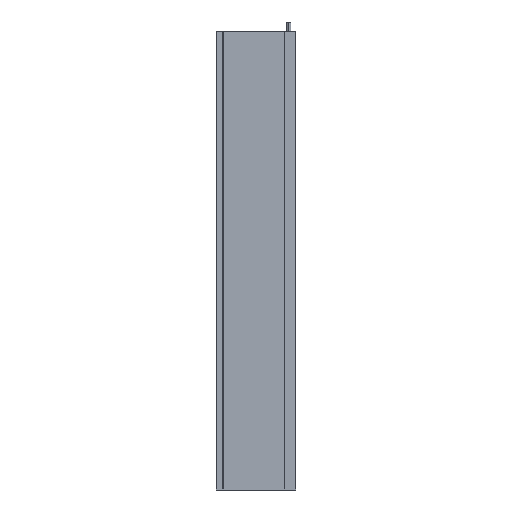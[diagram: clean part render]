
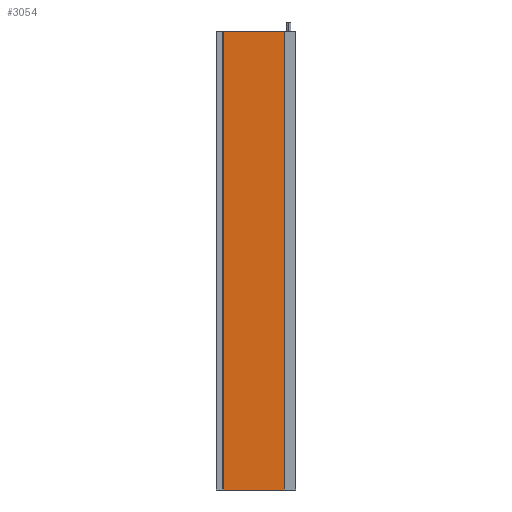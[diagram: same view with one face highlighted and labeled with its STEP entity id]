
A CAD part, left-side view. The second image highlights one B-rep face of the part: STEP entity #3054.
In plain terms, the highlighted planar face has unit normal (-1, 0, 0).
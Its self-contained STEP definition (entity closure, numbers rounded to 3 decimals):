
#5 = LINE ( 'NONE', #2229, #3610 ) ;
#395 = EDGE_LOOP ( 'NONE', ( #1405, #1328, #2647, #687 ) ) ;
#529 = VERTEX_POINT ( 'NONE', #3500 ) ;
#687 = ORIENTED_EDGE ( 'NONE', *, *, #1566, .T. ) ;
#815 = DIRECTION ( 'NONE',  ( 0., -1., 0. ) ) ;
#819 = AXIS2_PLACEMENT_3D ( 'NONE', #3363, #1374, #4153 ) ;
#1041 = VECTOR ( 'NONE', #3668, 1000. ) ;
#1328 = ORIENTED_EDGE ( 'NONE', *, *, #3673, .F. ) ;
#1353 = LINE ( 'NONE', #4968, #1968 ) ;
#1359 = EDGE_CURVE ( 'NONE', #3124, #529, #4170, .T. ) ;
#1374 = DIRECTION ( 'NONE',  ( 1., 0., 0. ) ) ;
#1405 = ORIENTED_EDGE ( 'NONE', *, *, #1359, .T. ) ;
#1566 = EDGE_CURVE ( 'NONE', #4343, #3124, #5, .T. ) ;
#1968 = VECTOR ( 'NONE', #815, 1000. ) ;
#2036 = VECTOR ( 'NONE', #5042, 1000. ) ;
#2229 = CARTESIAN_POINT ( 'NONE',  ( -5.31, -15.5, 1009. ) ) ;
#2633 = CARTESIAN_POINT ( 'NONE',  ( -5.31, -149.9, 0. ) ) ;
#2647 = ORIENTED_EDGE ( 'NONE', *, *, #3371, .F. ) ;
#2654 = LINE ( 'NONE', #4447, #1041 ) ;
#2953 = PLANE ( 'NONE',  #819 ) ;
#3054 = ADVANCED_FACE ( 'NONE', ( #4773 ), #2953, .F. ) ;
#3124 = VERTEX_POINT ( 'NONE', #4126 ) ;
#3363 = CARTESIAN_POINT ( 'NONE',  ( -5.31, -149.9, 1009. ) ) ;
#3371 = EDGE_CURVE ( 'NONE', #4343, #4670, #1353, .T. ) ;
#3500 = CARTESIAN_POINT ( 'NONE',  ( -5.31, -149.9, 0. ) ) ;
#3523 = CARTESIAN_POINT ( 'NONE',  ( -5.31, -15.5, 1009. ) ) ;
#3610 = VECTOR ( 'NONE', #4992, 1000. ) ;
#3668 = DIRECTION ( 'NONE',  ( 0., 0., -1. ) ) ;
#3673 = EDGE_CURVE ( 'NONE', #4670, #529, #2654, .T. ) ;
#4126 = CARTESIAN_POINT ( 'NONE',  ( -5.31, -15.5, 0. ) ) ;
#4153 = DIRECTION ( 'NONE',  ( 0., 1., 0. ) ) ;
#4170 = LINE ( 'NONE', #2633, #2036 ) ;
#4343 = VERTEX_POINT ( 'NONE', #3523 ) ;
#4447 = CARTESIAN_POINT ( 'NONE',  ( -5.31, -149.9, 1009. ) ) ;
#4670 = VERTEX_POINT ( 'NONE', #4804 ) ;
#4773 = FACE_OUTER_BOUND ( 'NONE', #395, .T. ) ;
#4804 = CARTESIAN_POINT ( 'NONE',  ( -5.31, -149.9, 1009. ) ) ;
#4968 = CARTESIAN_POINT ( 'NONE',  ( -5.31, -149.9, 1009. ) ) ;
#4992 = DIRECTION ( 'NONE',  ( 0., 0., -1. ) ) ;
#5042 = DIRECTION ( 'NONE',  ( 0., -1., 0. ) ) ;
